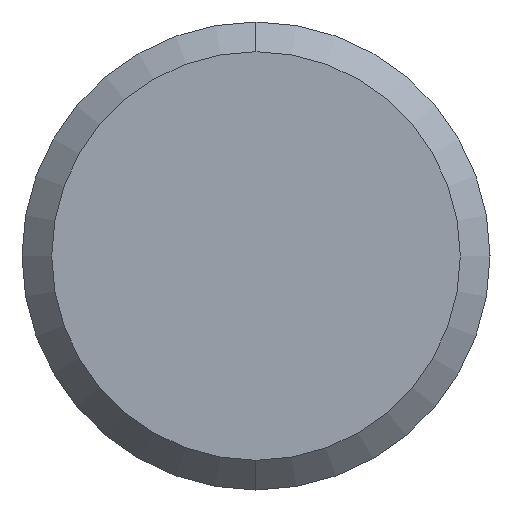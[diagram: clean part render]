
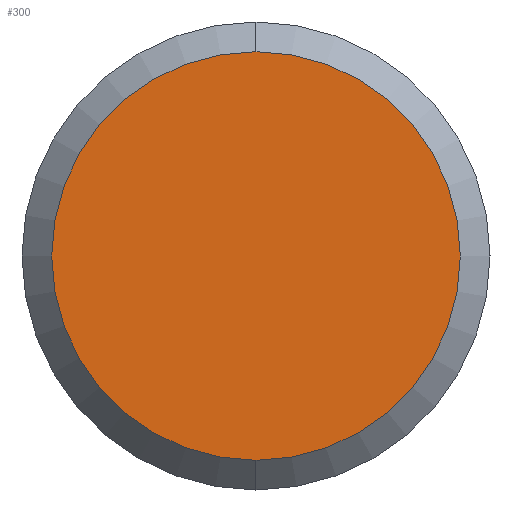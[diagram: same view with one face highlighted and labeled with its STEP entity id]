
A CAD part, left-side view. The second image highlights one B-rep face of the part: STEP entity #300.
In plain terms, the highlighted planar face has unit normal (-1, 0, 0).
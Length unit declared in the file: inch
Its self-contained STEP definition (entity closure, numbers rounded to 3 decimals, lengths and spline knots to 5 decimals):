
#1 = PLANE ( 'NONE',  #105 ) ;
#3 = DIRECTION ( 'NONE',  ( -1., 0., 0. ) ) ;
#30 = VERTEX_POINT ( 'NONE', #370 ) ;
#75 = EDGE_CURVE ( 'NONE', #330, #30, #129, .T. ) ;
#84 = CIRCLE ( 'NONE', #274, 0.17185 ) ;
#86 = CARTESIAN_POINT ( 'NONE',  ( 0., 0., 0. ) ) ;
#95 = AXIS2_PLACEMENT_3D ( 'NONE', #285, #308, #170 ) ;
#105 = AXIS2_PLACEMENT_3D ( 'NONE', #239, #3, #121 ) ;
#106 = ORIENTED_EDGE ( 'NONE', *, *, #75, .F. ) ;
#121 = DIRECTION ( 'NONE',  ( 0., 0., 1. ) ) ;
#129 = CIRCLE ( 'NONE', #95, 0.17185 ) ;
#135 = CARTESIAN_POINT ( 'NONE',  ( 0., 0., 0.17185 ) ) ;
#170 = DIRECTION ( 'NONE',  ( 0., 0., -1. ) ) ;
#190 = EDGE_LOOP ( 'NONE', ( #249, #106 ) ) ;
#207 = DIRECTION ( 'NONE',  ( 1., 0., 0. ) ) ;
#239 = CARTESIAN_POINT ( 'NONE',  ( 0., 0.17185, 0. ) ) ;
#249 = ORIENTED_EDGE ( 'NONE', *, *, #263, .F. ) ;
#263 = EDGE_CURVE ( 'NONE', #30, #330, #84, .T. ) ;
#264 = FACE_OUTER_BOUND ( 'NONE', #190, .T. ) ;
#274 = AXIS2_PLACEMENT_3D ( 'NONE', #86, #207, #315 ) ;
#285 = CARTESIAN_POINT ( 'NONE',  ( 0., 0., 0. ) ) ;
#300 = ADVANCED_FACE ( 'NONE', ( #264 ), #1, .T. ) ;
#308 = DIRECTION ( 'NONE',  ( 1., 0., 0. ) ) ;
#315 = DIRECTION ( 'NONE',  ( 0., 0., -1. ) ) ;
#330 = VERTEX_POINT ( 'NONE', #135 ) ;
#370 = CARTESIAN_POINT ( 'NONE',  ( 0., 0., -0.17185 ) ) ;
